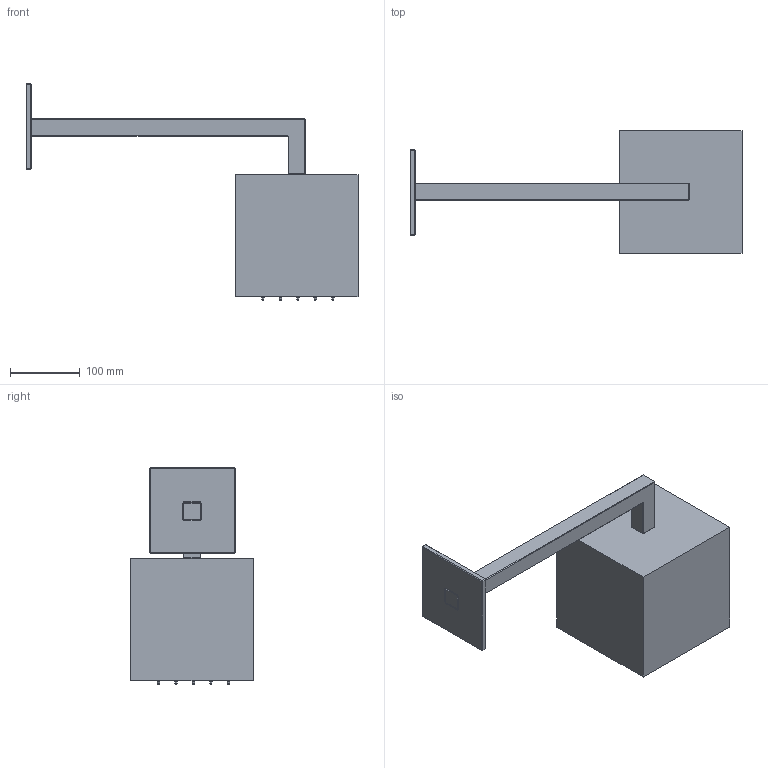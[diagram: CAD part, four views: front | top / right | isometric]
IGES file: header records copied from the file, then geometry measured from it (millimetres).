
Global section: file name: D:\Desktop\GIOVANNI\SCHEDE PRODOTTO\SOFFIONI\SOLID SHOWER\3D\MOMA DESIGN_SOFFIONI_SOLID SHOWER CUBIC.igs; native system: Rhinoceros ( Jan 17 2018 ); preprocessor: Trout Lake IGES 012 Jan 17 2018; date: 230523.155007; units: millimetre
Bounding box: 475 x 175 x 309.91 mm (x, y, z)
Surface area: 264098.8 mm2 (no closed solid volume)
Topology: 0 solids, 0 shells, 360 faces, 1806 edges, 1772 vertices
Faces by surface type: bspline 360
